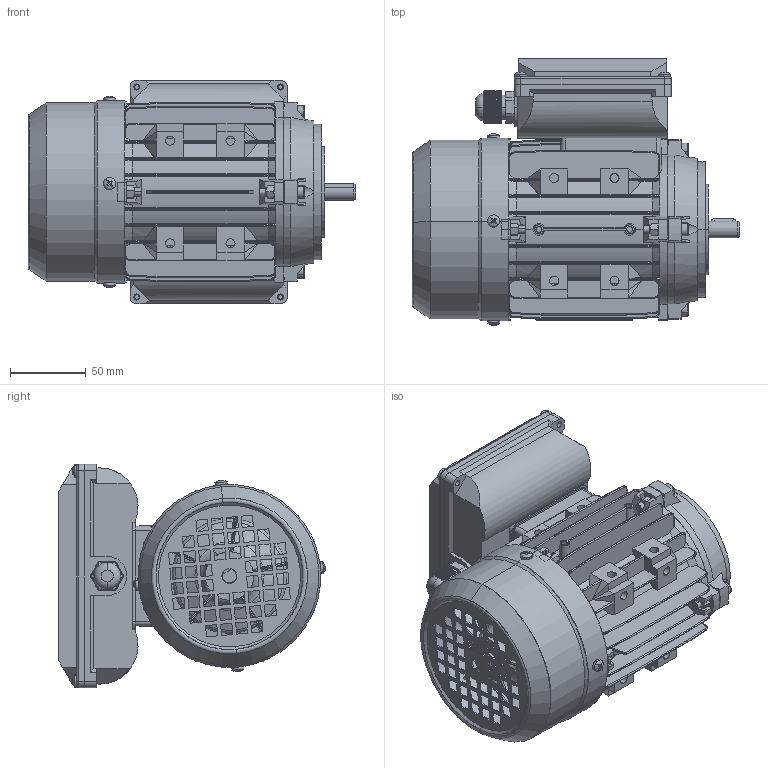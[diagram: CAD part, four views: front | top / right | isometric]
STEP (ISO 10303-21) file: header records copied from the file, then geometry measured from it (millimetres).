
FILE_DESCRIPTION (( 'STEP AP214' ), '1' );
FILE_NAME ('BDM0012.06B414.11.step', '2020-04-23T13:06:30', ( '' ), ( '' ), 'SwSTEP 2.0', 'SolidWorks 2019', '' );
FILE_SCHEMA (( 'AUTOMOTIVE_DESIGN' ));
Length unit declared in the file: millimetre
Products named in the file (1): BDM0012.06B414.11
Bounding box: 217 x 176.42 x 148 mm (x, y, z)
Volume: 591457 mm3; surface area: 412359.1 mm2
Topology: 34 solids, 34 shells, 2904 faces, 7555 edges, 4744 vertices
Faces by surface type: plane 1557, cylinder 876, cone 202, torus 91, sphere 90, bspline 88
Entity records: 101330 total; most frequent: CARTESIAN_POINT 31072, ORIENTED_EDGE 14990, DIRECTION 14041, EDGE_CURVE 7495, AXIS2_PLACEMENT_3D 4924, VERTEX_POINT 4744, VECTOR 4193, LINE 4193
